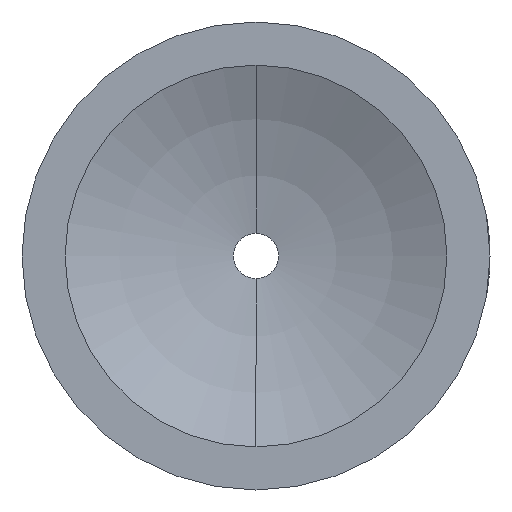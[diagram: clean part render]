
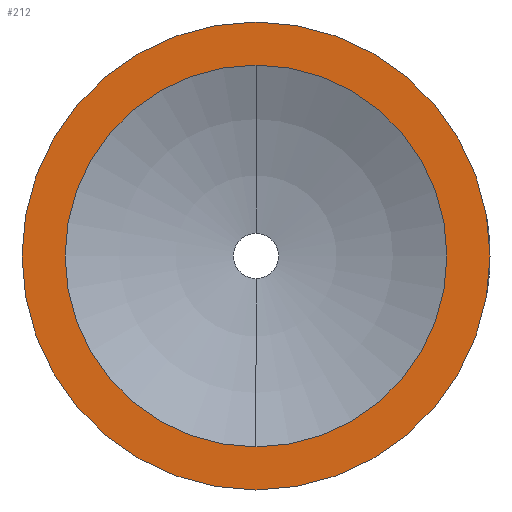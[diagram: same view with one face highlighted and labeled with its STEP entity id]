
A CAD part, left-side view. The second image highlights one B-rep face of the part: STEP entity #212.
In plain terms, the highlighted planar face has unit normal (-1, 0, 0).
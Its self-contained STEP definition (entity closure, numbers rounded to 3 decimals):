
#1 = DIRECTION ( 'NONE',  ( 1., 0., 0. ) ) ;
#10 = AXIS2_PLACEMENT_3D ( 'NONE', #242, #470, #268 ) ;
#14 = EDGE_CURVE ( 'NONE', #96, #189, #150, .T. ) ;
#17 = EDGE_LOOP ( 'NONE', ( #313, #139 ) ) ;
#36 = CIRCLE ( 'NONE', #152, 15.5 ) ;
#44 = CARTESIAN_POINT ( 'NONE',  ( 0., 1.75, 0. ) ) ;
#50 = PLANE ( 'NONE',  #263 ) ;
#63 = ORIENTED_EDGE ( 'NONE', *, *, #124, .F. ) ;
#81 = DIRECTION ( 'NONE',  ( -1., 0., 0. ) ) ;
#88 = CARTESIAN_POINT ( 'NONE',  ( 0., 0., 0. ) ) ;
#91 = EDGE_CURVE ( 'NONE', #277, #412, #283, .T. ) ;
#96 = VERTEX_POINT ( 'NONE', #493 ) ;
#107 = CARTESIAN_POINT ( 'NONE',  ( 0., 0., 0. ) ) ;
#124 = EDGE_CURVE ( 'NONE', #412, #277, #36, .T. ) ;
#139 = ORIENTED_EDGE ( 'NONE', *, *, #180, .T. ) ;
#144 = ORIENTED_EDGE ( 'NONE', *, *, #91, .F. ) ;
#150 = CIRCLE ( 'NONE', #311, 19. ) ;
#152 = AXIS2_PLACEMENT_3D ( 'NONE', #88, #246, #380 ) ;
#180 = EDGE_CURVE ( 'NONE', #189, #96, #235, .T. ) ;
#189 = VERTEX_POINT ( 'NONE', #522 ) ;
#212 = ADVANCED_FACE ( 'NONE', ( #345, #223 ), #50, .F. ) ;
#223 = FACE_OUTER_BOUND ( 'NONE', #17, .T. ) ;
#235 = CIRCLE ( 'NONE', #521, 19. ) ;
#242 = CARTESIAN_POINT ( 'NONE',  ( 0., 0., 0. ) ) ;
#246 = DIRECTION ( 'NONE',  ( -1., 0., 0. ) ) ;
#263 = AXIS2_PLACEMENT_3D ( 'NONE', #44, #1, #398 ) ;
#268 = DIRECTION ( 'NONE',  ( 0., 0., 1. ) ) ;
#277 = VERTEX_POINT ( 'NONE', #447 ) ;
#283 = CIRCLE ( 'NONE', #10, 15.5 ) ;
#311 = AXIS2_PLACEMENT_3D ( 'NONE', #107, #321, #454 ) ;
#313 = ORIENTED_EDGE ( 'NONE', *, *, #14, .T. ) ;
#321 = DIRECTION ( 'NONE',  ( -1., 0., 0. ) ) ;
#345 = FACE_BOUND ( 'NONE', #516, .T. ) ;
#380 = DIRECTION ( 'NONE',  ( 0., 0., 1. ) ) ;
#383 = CARTESIAN_POINT ( 'NONE',  ( 0., 0., 0. ) ) ;
#398 = DIRECTION ( 'NONE',  ( 0., 0., -1. ) ) ;
#412 = VERTEX_POINT ( 'NONE', #495 ) ;
#447 = CARTESIAN_POINT ( 'NONE',  ( 0., 0., 15.5 ) ) ;
#454 = DIRECTION ( 'NONE',  ( 0., 0., 1. ) ) ;
#470 = DIRECTION ( 'NONE',  ( -1., 0., 0. ) ) ;
#493 = CARTESIAN_POINT ( 'NONE',  ( 0., 0., 19. ) ) ;
#495 = CARTESIAN_POINT ( 'NONE',  ( 0., 0., -15.5 ) ) ;
#516 = EDGE_LOOP ( 'NONE', ( #144, #63 ) ) ;
#521 = AXIS2_PLACEMENT_3D ( 'NONE', #383, #81, #527 ) ;
#522 = CARTESIAN_POINT ( 'NONE',  ( 0., 0., -19. ) ) ;
#527 = DIRECTION ( 'NONE',  ( 0., 0., 1. ) ) ;
